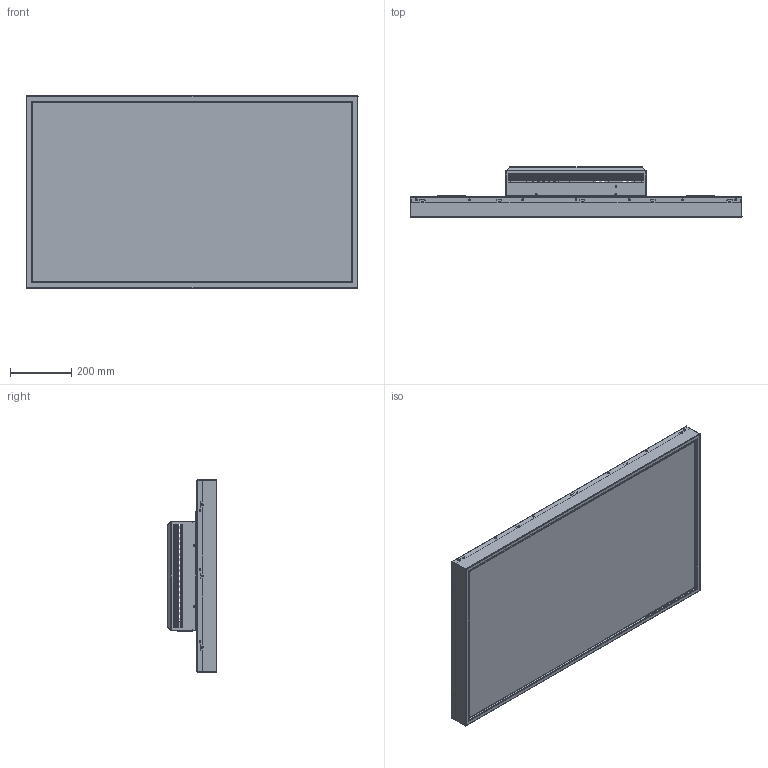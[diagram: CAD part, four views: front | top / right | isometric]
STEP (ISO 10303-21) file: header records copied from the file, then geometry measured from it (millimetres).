
FILE_DESCRIPTION(/* description */ (''),/* implementation_level */ '2;1');
FILE_NAME(/* name */ 'G:\Mechanik\TFT\HD2Line\PDP 47W-B\PDP 47-B costumer view\PDP 47-B costumer view.stp',/* time_stamp */ '2016-02-25T15:39:22+01:00',/* author */ ('bh'),/* organization */ (''),/* preprocessor_version */ 'ST-DEVELOPER v15.6',/* originating_system */ 'Autodesk Inventor 2015',/* authorisation */ '');
FILE_SCHEMA (('AUTOMOTIVE_DESIGN { 1 0 10303 214 3 1 1 }'));
Products named in the file (57): Sichtfeld (Bezel Open Area); Active Area 1039,68 x 584,82; 47_ LG-Panel_LD470WUB-SCE1; HUC_FEKSG 3,5_KVT FILKO Blindnietmutter M6; HUC_FEKSG 3,5_KVT FILKO Blindnietmutter M6_1; HUC_FEKSG 3,5_KVT FILKO Blindnietmutter M6_2; HUC_FEKSG 3,5_KVT FILKO Blindnietmutter M6_3; HUC_FEKSG 3,5_KVT FILKO Blindnietmutter M6_4; HUC_FEKSG 3,5_KVT FILKO Blindnietmutter M6_5; HUC_FEKSG 3,5_KVT FILKO Blindnietmutter M6_6; HUC_FEKSG 3,5_KVT FILKO Blindnietmutter M6_7; HUC_FEKSG 3,5_KVT FILKO Blindnietmutter M6_8; HUC_FEKSG 3,5_KVT FILKO Blindnietmutter M6_9; HUC_FEKSG 3,5_KVT FILKO Blindnietmutter M6_10; HUC_FEKSG 3,5_KVT FILKO Blindnietmutter M6_11; HUC_FEKSG 3,5_KVT FILKO Blindnietmutter M6_12; HUC_FEKSG 3,5_KVT FILKO Blindnietmutter M6_13; KVT FILKO Blindnietmutter M6; M-ET-028-A_VESA Anschraubplatte; VESA Anschraubplatte kpl._Baugruppe; VESA Anschraubung kpl._Baugruppe; DICHTGUMMI; DICHTGUMMI_1; DICHTGUMMI_2; DICHTGUMMI_3; Dichtgummi; T-470-000-01_Kantblech_0; Frontrahmen kpl._Baugruppe; P2-42_Southco Griffmulde; P2-42_Southco Griffmulde_1; Southco Griffmulde; Einbauten Kunde_Baugruppe; T-470-000-02_Kantblech_0; Rückwand kpl._Baugruppe; Netzschalter; Warnblitz; Sicherheitslabel; Einbauten Kunde_Baugruppe_1; M-ET-039-A_Kantblech_0; M-ET-039-A_Frontblende Netzteileinschub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
Assembly tree (56 placements, depth 6):
  PDP 47W-B
    47_ LG-Panel_LD470WUB-SCE1
      Sichtfeld (Bezel Open Area)
      Active Area 1039,68 x 584,82
    VESA Anschraubung kpl._Baugruppe
      VESA Anschraubplatte kpl._Baugruppe
        M-ET-028-A_VESA Anschraubplatte
          KVT FILKO Blindnietmutter M6
            HUC_FEKSG 3,5_KVT FILKO Blindnietmutter M6
            HUC_FEKSG 3,5_KVT FILKO Blindnietmutter M6_1
            HUC_FEKSG 3,5_KVT FILKO Blindnietmutter M6_2
            HUC_FEKSG 3,5_KVT FILKO Blindnietmutter M6_3
            HUC_FEKSG 3,5_KVT FILKO Blindnietmutter M6_4
            HUC_FEKSG 3,5_KVT FILKO Blindnietmutter M6_5
            HUC_FEKSG 3,5_KVT FILKO Blindnietmutter M6_6
            HUC_FEKSG 3,5_KVT FILKO Blindnietmutter M6_7
            HUC_FEKSG 3,5_KVT FILKO Blindnietmutter M6_8
            HUC_FEKSG 3,5_KVT FILKO Blindnietmutter M6_9
            HUC_FEKSG 3,5_KVT FILKO Blindnietmutter M6_10
            HUC_FEKSG 3,5_KVT FILKO Blindnietmutter M6_11
            HUC_FEKSG 3,5_KVT FILKO Blindnietmutter M6_12
            HUC_FEKSG 3,5_KVT FILKO Blindnietmutter M6_13
    Frontrahmen kpl._Baugruppe
      Dichtgummi
        DICHTGUMMI
        DICHTGUMMI_1
        DICHTGUMMI_2
        DICHTGUMMI_3
      T-470-000-01_Kantblech_0
    Rückwand kpl._Baugruppe
      Einbauten Kunde_Baugruppe
        Southco Griffmulde
          P2-42_Southco Griffmulde
          P2-42_Southco Griffmulde_1
      T-470-000-02_Kantblech_0
    Kartenträger kpl._Baugruppe
      Netzteileinschub kpl._Baugruppe
        Einbauten Kunde_Baugruppe_1
          Netzschalter
          Sicherheitslabel
            Warnblitz
            Sicherheitslabel
        M-ET-039-A_Frontblende Netzteileinschub
          M-ET-039-A_Kantblech_0
      Frontblenden_Baugruppe
        NC_AUDIOMODUL_600-031-00
          T-600-031-01
            T-600-031-01
        T-600-032-01
          T-600-032-01
        T-600-033-01
          T-600-033-01
        T-600-037-01
          T-600-037-01
    Rückhaube kpl._Baugruppe
      M-ET-025-A_Rückhaube
        M-ET-025-A_Kantblech_0
Bounding box: 1081.4 x 162.5 x 626.6 mm (x, y, z)
Volume: 4246220.1 mm3; surface area: 4858993.4 mm2
Topology: 34 solids, 34 shells, 3571 faces, 10014 edges, 6562 vertices
Faces by surface type: plane 1878, cylinder 1531, cone 109, bspline 26, torus 18, sphere 9
Full cylindrical faces by diameter (mm): 2.75 x4, 3.05 x2, 3.1 x7, 3.2 x6, 4.1 x3, 4.25 x20, 4.3 x57, 4.8 x10, 6 x14, 6.1 x57, 8.5 x14, 9 x14, 13 x16, 13.2 x1, 22 x2
Entity records: 118173 total; most frequent: CARTESIAN_POINT 21442, DIRECTION 20000, ORIENTED_EDGE 19114, EDGE_CURVE 9557, AXIS2_PLACEMENT_3D 6812, VERTEX_POINT 6450, LINE 6376, VECTOR 6376
